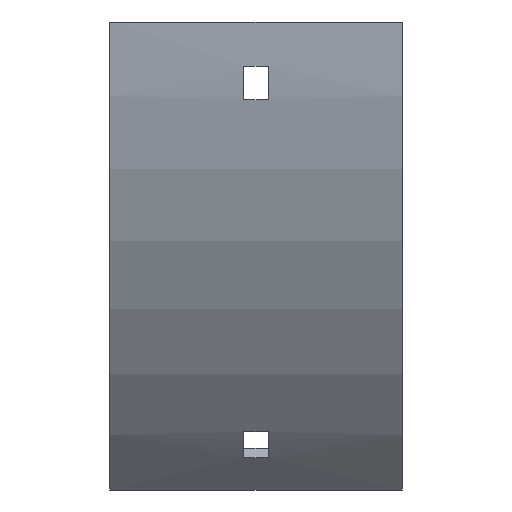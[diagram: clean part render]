
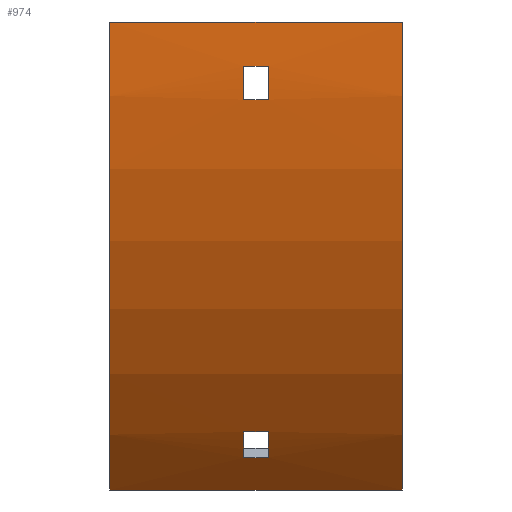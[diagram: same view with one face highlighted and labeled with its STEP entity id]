
A CAD part, front view. The second image highlights one B-rep face of the part: STEP entity #974.
In plain terms, the highlighted cylindrical face has radius 179 mm (diameter 358 mm), a partial arc.
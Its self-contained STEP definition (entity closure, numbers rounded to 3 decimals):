
#17 = DIRECTION ( 'NONE',  ( 0., 0., -1. ) ) ;
#47 = CIRCLE ( 'NONE', #893, 179. ) ;
#53 = VERTEX_POINT ( 'NONE', #1433 ) ;
#56 = CARTESIAN_POINT ( 'NONE',  ( 3.25, 100., 0. ) ) ;
#64 = DIRECTION ( 'NONE',  ( -1., 0., 0. ) ) ;
#75 = CARTESIAN_POINT ( 'NONE',  ( 39.5, -77.764, -21. ) ) ;
#82 = DIRECTION ( 'NONE',  ( 0., 0., -1. ) ) ;
#91 = VECTOR ( 'NONE', #1015, 1000. ) ;
#113 = ORIENTED_EDGE ( 'NONE', *, *, #1315, .F. ) ;
#131 = EDGE_LOOP ( 'NONE', ( #352, #901, #679, #1453 ) ) ;
#147 = LINE ( 'NONE', #1555, #423 ) ;
#150 = VERTEX_POINT ( 'NONE', #1032 ) ;
#153 = VERTEX_POINT ( 'NONE', #239 ) ;
#165 = CARTESIAN_POINT ( 'NONE',  ( 3.25, -34.773, -117.802 ) ) ;
#170 = DIRECTION ( 'NONE',  ( 1., 0., 0. ) ) ;
#182 = AXIS2_PLACEMENT_3D ( 'NONE', #56, #64, #984 ) ;
#207 = CARTESIAN_POINT ( 'NONE',  ( 39.5, -26.572, -126.572 ) ) ;
#228 = VECTOR ( 'NONE', #1237, 1000. ) ;
#239 = CARTESIAN_POINT ( 'NONE',  ( -3.25, -78.597, -12. ) ) ;
#243 = FACE_BOUND ( 'NONE', #536, .T. ) ;
#265 = CARTESIAN_POINT ( 'NONE',  ( -3.25, 100., 0. ) ) ;
#268 = AXIS2_PLACEMENT_3D ( 'NONE', #265, #623, #393 ) ;
#271 = CARTESIAN_POINT ( 'NONE',  ( 3.25, 100., 0. ) ) ;
#306 = AXIS2_PLACEMENT_3D ( 'NONE', #1536, #466, #482 ) ;
#327 = EDGE_CURVE ( 'NONE', #979, #885, #1657, .T. ) ;
#347 = EDGE_CURVE ( 'NONE', #1393, #1289, #562, .T. ) ;
#352 = ORIENTED_EDGE ( 'NONE', *, *, #347, .T. ) ;
#363 = CIRCLE ( 'NONE', #1602, 179. ) ;
#393 = DIRECTION ( 'NONE',  ( 0., 0., 1. ) ) ;
#410 = DIRECTION ( 'NONE',  ( 1., 0., 0. ) ) ;
#411 = EDGE_CURVE ( 'NONE', #1554, #1513, #1499, .T. ) ;
#423 = VECTOR ( 'NONE', #410, 1000. ) ;
#445 = EDGE_CURVE ( 'NONE', #1513, #589, #477, .T. ) ;
#446 = EDGE_LOOP ( 'NONE', ( #588, #113, #1437, #1010 ) ) ;
#448 = DIRECTION ( 'NONE',  ( 0., 0., -1. ) ) ;
#466 = DIRECTION ( 'NONE',  ( -1., 0., 0. ) ) ;
#477 = LINE ( 'NONE', #1392, #673 ) ;
#480 = CARTESIAN_POINT ( 'NONE',  ( -3.25, -77.764, -21. ) ) ;
#482 = DIRECTION ( 'NONE',  ( 0., 0., 1. ) ) ;
#520 = EDGE_CURVE ( 'NONE', #589, #1328, #532, .T. ) ;
#532 = CIRCLE ( 'NONE', #1442, 179. ) ;
#536 = EDGE_LOOP ( 'NONE', ( #1564, #843, #1443, #1271 ) ) ;
#562 = LINE ( 'NONE', #75, #840 ) ;
#582 = CARTESIAN_POINT ( 'NONE',  ( -39.5, 100., 0. ) ) ;
#587 = CIRCLE ( 'NONE', #268, 179. ) ;
#588 = ORIENTED_EDGE ( 'NONE', *, *, #327, .T. ) ;
#589 = VERTEX_POINT ( 'NONE', #1468 ) ;
#590 = CARTESIAN_POINT ( 'NONE',  ( -39.5, -79., 0. ) ) ;
#591 = DIRECTION ( 'NONE',  ( -1., 0., 0. ) ) ;
#606 = DIRECTION ( 'NONE',  ( 1., 0., 0. ) ) ;
#612 = LINE ( 'NONE', #863, #91 ) ;
#623 = DIRECTION ( 'NONE',  ( -1., 0., 0. ) ) ;
#673 = VECTOR ( 'NONE', #1041, 1000. ) ;
#679 = ORIENTED_EDGE ( 'NONE', *, *, #993, .T. ) ;
#682 = CARTESIAN_POINT ( 'NONE',  ( 3.25, -40.547, -110.849 ) ) ;
#714 = CARTESIAN_POINT ( 'NONE',  ( 39.5, -79., 0. ) ) ;
#783 = DIRECTION ( 'NONE',  ( 1., 0., 0. ) ) ;
#793 = DIRECTION ( 'NONE',  ( 0., 0., -1. ) ) ;
#840 = VECTOR ( 'NONE', #591, 1000. ) ;
#843 = ORIENTED_EDGE ( 'NONE', *, *, #445, .F. ) ;
#863 = CARTESIAN_POINT ( 'NONE',  ( 39.5, -26.572, -126.572 ) ) ;
#885 = VERTEX_POINT ( 'NONE', #1129 ) ;
#888 = CARTESIAN_POINT ( 'NONE',  ( 3.25, -77.764, -21. ) ) ;
#893 = AXIS2_PLACEMENT_3D ( 'NONE', #1434, #899, #17 ) ;
#899 = DIRECTION ( 'NONE',  ( 1., 0., 0. ) ) ;
#901 = ORIENTED_EDGE ( 'NONE', *, *, #1688, .T. ) ;
#974 = ADVANCED_FACE ( 'NONE', ( #1421, #1663, #243 ), #1290, .T. ) ;
#979 = VERTEX_POINT ( 'NONE', #590 ) ;
#984 = DIRECTION ( 'NONE',  ( 0., 0., 1. ) ) ;
#993 = EDGE_CURVE ( 'NONE', #153, #150, #997, .T. ) ;
#997 = LINE ( 'NONE', #1300, #1135 ) ;
#1009 = EDGE_CURVE ( 'NONE', #1328, #1554, #147, .T. ) ;
#1010 = ORIENTED_EDGE ( 'NONE', *, *, #1133, .T. ) ;
#1015 = DIRECTION ( 'NONE',  ( -1., 0., 0. ) ) ;
#1032 = CARTESIAN_POINT ( 'NONE',  ( 3.25, -78.597, -12. ) ) ;
#1037 = DIRECTION ( 'NONE',  ( 1., 0., 0. ) ) ;
#1041 = DIRECTION ( 'NONE',  ( -1., 0., 0. ) ) ;
#1088 = EDGE_CURVE ( 'NONE', #150, #1393, #363, .T. ) ;
#1129 = CARTESIAN_POINT ( 'NONE',  ( -39.5, -26.572, -126.572 ) ) ;
#1133 = EDGE_CURVE ( 'NONE', #53, #979, #1338, .T. ) ;
#1135 = VECTOR ( 'NONE', #783, 1000. ) ;
#1201 = AXIS2_PLACEMENT_3D ( 'NONE', #582, #170, #448 ) ;
#1237 = DIRECTION ( 'NONE',  ( -1., 0., 0. ) ) ;
#1251 = VERTEX_POINT ( 'NONE', #207 ) ;
#1271 = ORIENTED_EDGE ( 'NONE', *, *, #1009, .F. ) ;
#1289 = VERTEX_POINT ( 'NONE', #480 ) ;
#1290 = CYLINDRICAL_SURFACE ( 'NONE', #306, 179. ) ;
#1300 = CARTESIAN_POINT ( 'NONE',  ( 39.5, -78.597, -12. ) ) ;
#1315 = EDGE_CURVE ( 'NONE', #1251, #885, #612, .T. ) ;
#1328 = VERTEX_POINT ( 'NONE', #1381 ) ;
#1338 = LINE ( 'NONE', #714, #228 ) ;
#1381 = CARTESIAN_POINT ( 'NONE',  ( -3.25, -34.773, -117.802 ) ) ;
#1392 = CARTESIAN_POINT ( 'NONE',  ( 39.5, -40.547, -110.849 ) ) ;
#1393 = VERTEX_POINT ( 'NONE', #888 ) ;
#1421 = FACE_OUTER_BOUND ( 'NONE', #446, .T. ) ;
#1433 = CARTESIAN_POINT ( 'NONE',  ( 39.5, -79., 0. ) ) ;
#1434 = CARTESIAN_POINT ( 'NONE',  ( 39.5, 100., 0. ) ) ;
#1437 = ORIENTED_EDGE ( 'NONE', *, *, #1440, .F. ) ;
#1440 = EDGE_CURVE ( 'NONE', #53, #1251, #47, .T. ) ;
#1442 = AXIS2_PLACEMENT_3D ( 'NONE', #1531, #606, #82 ) ;
#1443 = ORIENTED_EDGE ( 'NONE', *, *, #411, .F. ) ;
#1453 = ORIENTED_EDGE ( 'NONE', *, *, #1088, .T. ) ;
#1468 = CARTESIAN_POINT ( 'NONE',  ( -3.25, -40.547, -110.849 ) ) ;
#1499 = CIRCLE ( 'NONE', #182, 179. ) ;
#1513 = VERTEX_POINT ( 'NONE', #682 ) ;
#1531 = CARTESIAN_POINT ( 'NONE',  ( -3.25, 100., 0. ) ) ;
#1536 = CARTESIAN_POINT ( 'NONE',  ( 39.5, 100., 0. ) ) ;
#1554 = VERTEX_POINT ( 'NONE', #165 ) ;
#1555 = CARTESIAN_POINT ( 'NONE',  ( 39.5, -34.773, -117.802 ) ) ;
#1564 = ORIENTED_EDGE ( 'NONE', *, *, #520, .F. ) ;
#1602 = AXIS2_PLACEMENT_3D ( 'NONE', #271, #1037, #793 ) ;
#1657 = CIRCLE ( 'NONE', #1201, 179. ) ;
#1663 = FACE_BOUND ( 'NONE', #131, .T. ) ;
#1688 = EDGE_CURVE ( 'NONE', #1289, #153, #587, .T. ) ;
